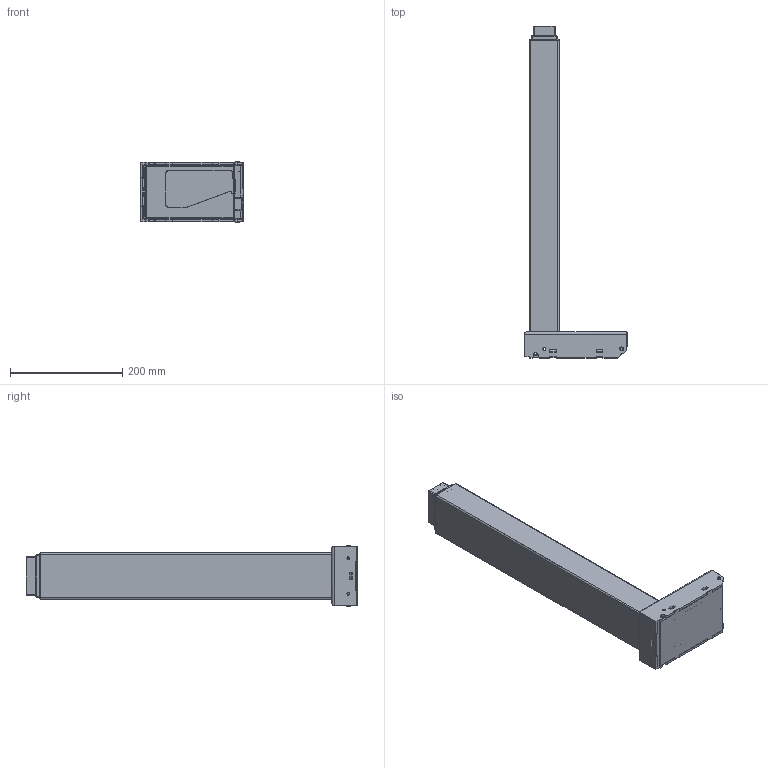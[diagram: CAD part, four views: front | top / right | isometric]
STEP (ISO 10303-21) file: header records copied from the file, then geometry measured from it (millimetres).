
FILE_DESCRIPTION (( 'STEP AP203' ), '1' );
FILE_NAME ('3D_TL33SR.STEP', '2018-12-22T02:08:35', ( '' ), ( '' ), 'SwSTEP 2.0', 'SolidWorks 2015', '' );
FILE_SCHEMA (( 'CONFIG_CONTROL_DESIGN' ));
Length unit declared in the file: millimetre
Products named in the file (14): 三維零件圖-33105-087-0X-X-防擺環-A; 三維零件圖-33105-085-0X-X-防擺環-A; 三維零件圖-32317-1802-524-X-中層管烤漆-B; 三維零件圖-31605-395-塑膠上蓋-E; 3D_TL33SR; 三維零件圖-32317-1905-565-外層管烤漆-B; 三維零件圖-32317-2502-520-內層管烤漆-A
Assembly tree (7 placements, depth 2):
  三維零件圖-33105-087-0X-X-防擺環-A
  三維零件圖-32317-1802-524-X-中層管烤漆-B
  三維零件圖-31605-395-塑膠上蓋-E
  3D_TL33SR
    三維零件圖-32317-1905-565-外層管烤漆-B
  3D_TL33SR
    三維零件圖-32317-1905-565-外層管烤漆-B
    三維零件圖-32317-2502-520-內層管烤漆-A
    三維零件圖-33105-085-0X-X-防擺環-A
    三維零件圖-33105-087-0X-X-防擺環-A
    三維零件圖-32317-1802-524-X-中層管烤漆-B
    三維零件圖-31605-395-塑膠上蓋-E
Bounding box: 183 x 590.5 x 107 mm (x, y, z)
Volume: 755462.5 mm3; surface area: 874501.7 mm2
Topology: 7 solids, 7 shells, 2293 faces, 5839 edges, 3477 vertices
Faces by surface type: cylinder 990, plane 714, torus 312, bspline 160, sphere 89, cone 28
Entity records: 73894 total; most frequent: CARTESIAN_POINT 18333, ORIENTED_EDGE 11502, DIRECTION 11457, EDGE_CURVE 5751, AXIS2_PLACEMENT_3D 4211, VERTEX_POINT 3475, VECTOR 3035, LINE 3035
